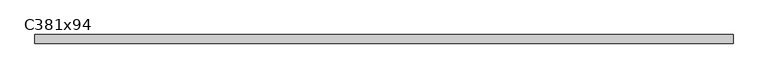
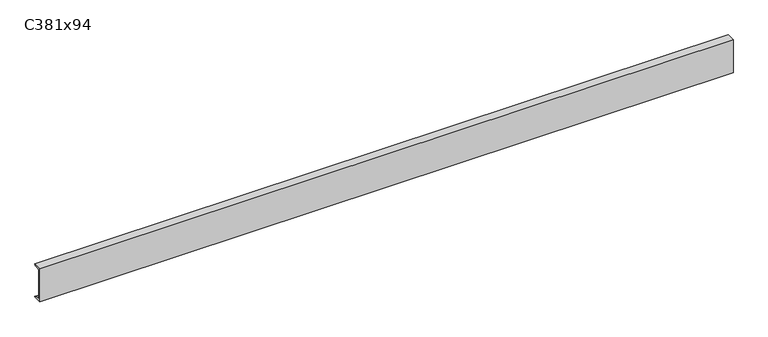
"""IFC4 building model written with IfcOpenShell, lengths in millimetres: beam geometry, M_C-Channel_305x105 : C381x94."""

from ifc_helpers import new_model, si_unit, point, frame, frame_2d, origin, place, context, project, spatial, polyline, circle_curve, trimmed, segment, composite_curve, outline, extrude, source, transform, mapped, element, save


def c381x94_26746bf0(model_context):
    return source(origin(), model_context, "Body", "SweptSolid", [
        extrude(outline(composite_curve([segment(polyline([(-13.8909985, 190.5), (80.1090015, 190.5)]), True, "CONTINUOUS"), segment(trimmed(circle_curve(frame_2d((67.4090015, 190.5)), 12.7), [point((80.1090015, 190.5))], [point((67.4090015, 177.8))], False, "CARTESIAN"), True, "CONTINUOUS"), segment(polyline([(67.4090015, 177.8), (-0.8909985, 166.9823427), (-0.8909985, -166.9823427), (67.4090015, -177.8)]), True, "CONTINUOUS"), segment(trimmed(circle_curve(frame_2d((67.4090015, -190.5)), 12.7), [point((67.4090015, -177.8))], [point((80.1090015, -190.5))], False, "CARTESIAN"), True, "CONTINUOUS"), segment(polyline([(80.1090015, -190.5), (-13.8909985, -190.5), (-13.8909985, 190.5)]), True, "CONTINUOUS")], self_intersect=False)), frame((1180.641, 0.0, 0.0), z_axis=(1.0, 0.0, 0.0), x_axis=(0.0, 1.0, 0.0)), (0.0, 0.0, 1.0), 7619.3769991),
        extrude(outline(polyline([(4.2340015, 166.8239583), (4.2340015, -164.495707), (4.2340015, -166.8239583), (-0.8909985, -166.012238), (-0.8909985, 166.012238), (4.2340015, 166.8239583)])), frame((1180.641, 0.0, 0.0), z_axis=(1.0, 0.0, 0.0), x_axis=(0.0, 1.0, 0.0)), (0.0, 0.0, 1.0), 7619.3769991),
    ])


if __name__ == "__main__":
    model = new_model("IFC4")
    model_context = context("Model", 3, world=origin())
    ifc_project = project(units=[si_unit("LENGTHUNIT", "METRE", prefix="MILLI")], contexts=[model_context])
    site = spatial("IfcSite", under=ifc_project)
    building = spatial("IfcBuilding", under=site)
    placement = place(None, origin())
    c381x94_shape = c381x94_26746bf0(model_context)
    element("IfcBeam", 1, ObjectType="M_C-Channel_305x105 : C381x94", at=placement, inside=building, context=model_context, shape_type="MappedRepresentation", body=[
        mapped(c381x94_shape, transform((0.0, 0.0, 0.0), x_axis=(1.0, 0.0, 0.0), y_axis=(0.0, 1.0, 0.0), z_axis=(0.0, 0.0, 1.0))),
    ])
    save(model, "model.ifc")
